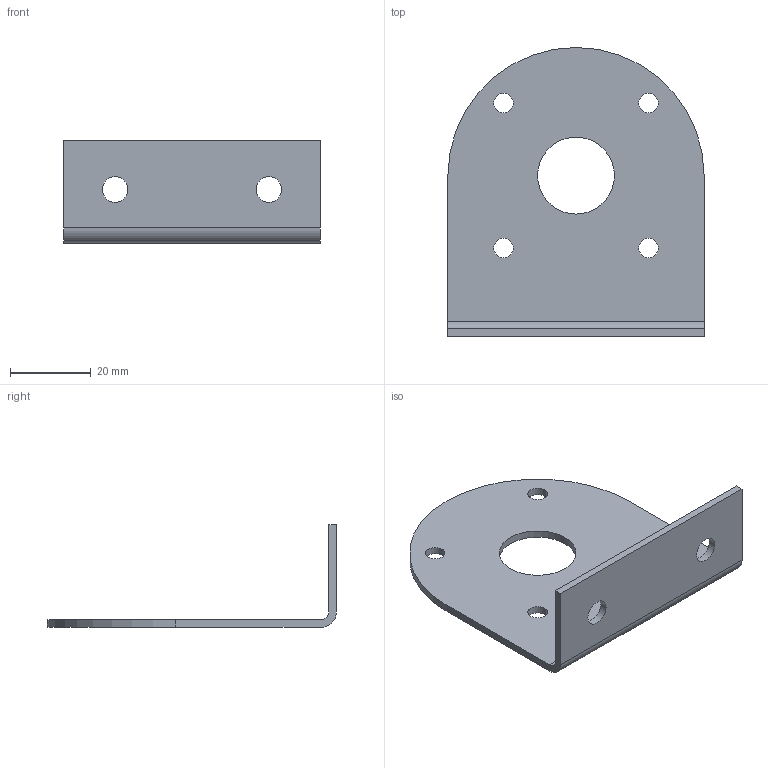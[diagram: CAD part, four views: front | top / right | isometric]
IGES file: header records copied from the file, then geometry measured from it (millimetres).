
Global section: file name: No Iges File Name specified; native system: AutoDesk Inventor R5.0; preprocessor: AutoDesk Inventor Iges Exporter R5.0; author: No Author specified; organization: No Organization specified; date: 20070115.081238; units: inch
Bounding box: 63.5 x 71.63 x 25.4 mm (x, y, z)
Surface area: 11069.8 mm2 (no closed solid volume)
Topology: 0 solids, 0 shells, 17 faces, 89 edges, 82 vertices
Faces by surface type: plane 7, revolution 5, bspline 5
